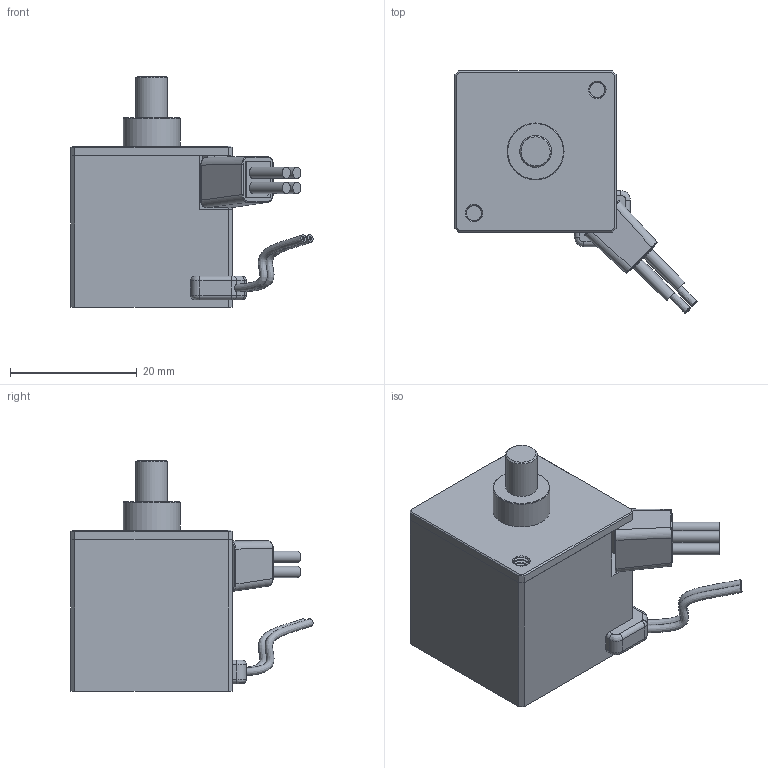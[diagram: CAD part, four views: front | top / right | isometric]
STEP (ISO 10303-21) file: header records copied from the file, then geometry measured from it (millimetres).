
FILE_DESCRIPTION(/* description */ (''),/* implementation_level */ '2;1');
FILE_NAME(/* name */ 'C:/Users/Joram/Deployables Cubed GmbH/1-10 Non-Destructive Release Actuators - Dokumente/1-1u micro-Class Release Actuator/1-13 uD3PP/1-13 Product Files/1-13 Non-confidential Documents/1-13 Simplified CAD-Files/D3-1-13-1000-00-uD3PPSimple-STD.step',/* time_stamp */ '2022-02-02T19:55:41+01:00',/* author */ (''),/* organization */ (''),/* preprocessor_version */ 'ST-DEVELOPER v18.1',/* originating_system */ 'Autodesk Translation Framework v10.13.0.1454',/* authorisation */ '');
FILE_SCHEMA (('AUTOMOTIVE_DESIGN { 1 0 10303 214 3 1 1 }'));
Length unit declared in the file: millimetre
Products named in the file (6): D3-0101-1000-00-uD3PPSimple-STD-V1; cage v1; pin v1; nD3PP-Casing Version2 v3; nD3PP-simple_Releassensor Wires v1; D3-01-1000-05-WireSleeve-V3_D3-01-1000-05-WireSleeve-V9 v1
Assembly tree (5 placements, depth 2):
  D3-0101-1000-00-uD3PPSimple-STD-V1
    cage v1
    pin v1
    nD3PP-Casing Version2 v3
    nD3PP-simple_Releassensor Wires v1
    D3-01-1000-05-WireSleeve-V3_D3-01-1000-05-WireSleeve-V9 v1
Bounding box: 38.28 x 38.28 x 36.5 mm (x, y, z)
Volume: 9131.2 mm3; surface area: 10763.4 mm2
Topology: 9 solids, 9 shells, 323 faces, 785 edges, 496 vertices
Faces by surface type: plane 157, cylinder 116, bspline 38, cone 6, torus 4, sphere 2
Full cylindrical faces by diameter (mm): 0.353 x2, 0.53 x2, 1.8 x4, 1.831 x2, 2.434 x10, 2.5 x1, 3.111 x2, 4.725 x1, 5 x2, 9 x1, 10.5 x1
Entity records: 13529 total; most frequent: CARTESIAN_POINT 5913, ORIENTED_EDGE 1566, DIRECTION 1478, EDGE_CURVE 783, AXIS2_PLACEMENT_3D 512, VERTEX_POINT 496, LINE 454, VECTOR 454
